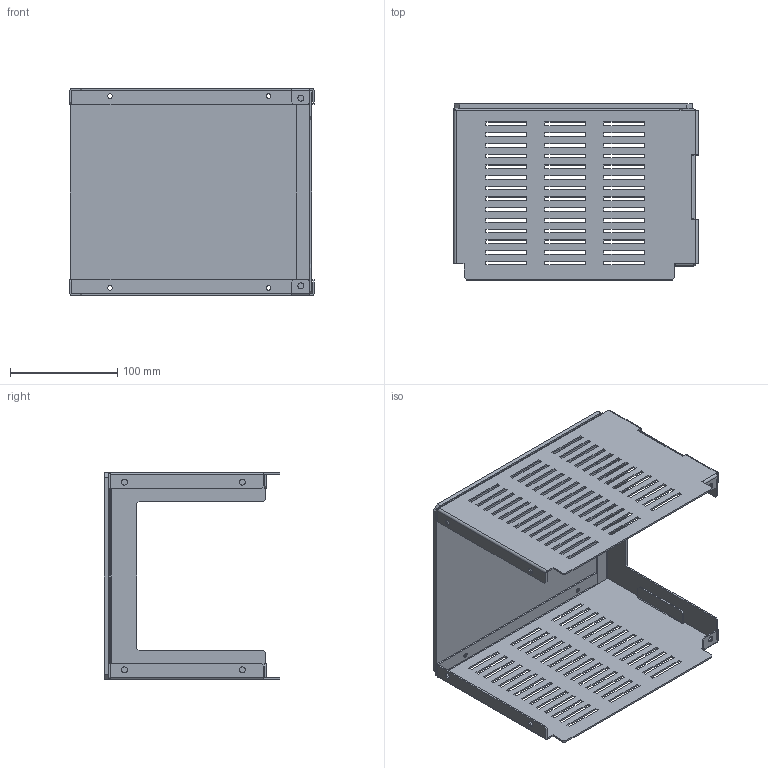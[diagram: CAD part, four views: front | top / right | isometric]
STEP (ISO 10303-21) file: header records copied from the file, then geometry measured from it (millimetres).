
FILE_DESCRIPTION(('CAx-IF Rec.Pracs.---Model Styling and Organization---1.2---2011-12-15','CAx-IF Rec.Pracs.---Geometric and Assembly Validation Properties---4.1---2014-06-16','CAx-IF Rec.Pracs.---PMI Polyline Presentation---2.0---2013-05-24'),'2;1');
FILE_NAME('R5M2W4MRB4.stp','2021-05-05T13:08:43+03:00',(''),(''),'STEP Interface 4.4 by CT CoreTechnologie','3D_Evolution4.4 by CT CoreTechnologie','');
FILE_SCHEMA(('AUTOMOTIVE_DESIGN { 1 0 10303 214 1 1 1 1 }'));
Length unit declared in the file: millimetre
Products named in the file (5): R5M2W4MRB4; RB.1469.00.00.0_-00; RB.1461.00.00.0_-02; RB.1462.00.00.0_-02; RB.1469.00.00.0_-01
Assembly tree (4 placements, depth 2):
  R5M2W4MRB4
    RB.1469.00.00.0_-00
    RB.1461.00.00.0_-02
    RB.1462.00.00.0_-02
    RB.1469.00.00.0_-01
Bounding box: 228 x 164 x 193 mm (x, y, z)
Surface area: 275918.2 mm2 (no closed solid volume)
Topology: 0 solids, 4 shells, 544 faces, 1552 edges, 1016 vertices
Faces by surface type: plane 488, cylinder 54, bspline 2
Entity records: 18067 total; most frequent: CARTESIAN_POINT 3220, ORIENTED_EDGE 3104, DIRECTION 2751, EDGE_CURVE 1552, VECTOR 1441, LINE 1441, VERTEX_POINT 1016, EDGE_LOOP 740
